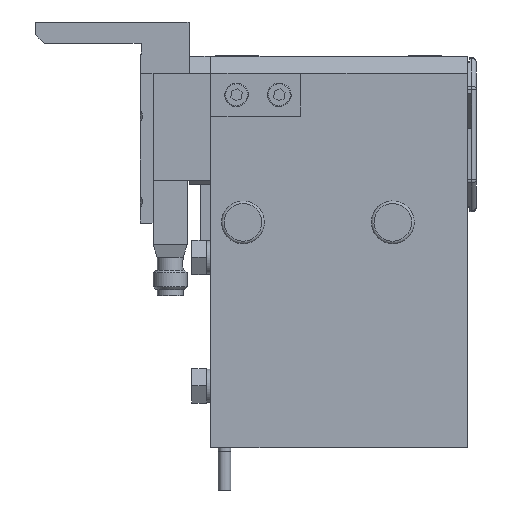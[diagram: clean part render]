
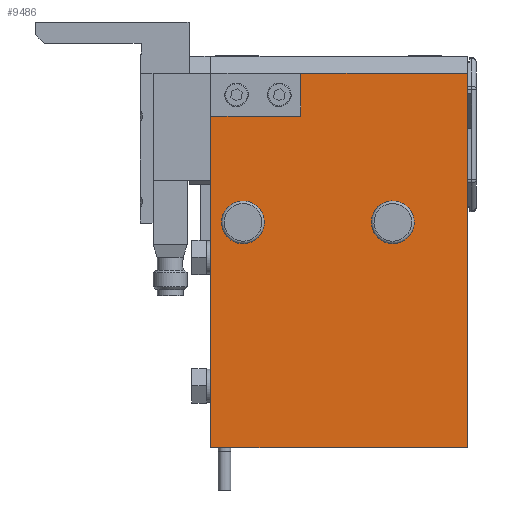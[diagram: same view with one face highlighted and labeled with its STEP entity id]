
A CAD part, front view. The second image highlights one B-rep face of the part: STEP entity #9486.
In plain terms, the highlighted planar face has unit normal (0, -1, 0).
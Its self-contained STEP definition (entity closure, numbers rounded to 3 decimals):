
#201=FACE_BOUND('',#1624,.T.);
#202=FACE_BOUND('',#1625,.T.);
#408=CIRCLE('',#10071,5.);
#413=CIRCLE('',#10082,5.);
#1002=FACE_OUTER_BOUND('',#1623,.T.);
#1623=EDGE_LOOP('',(#7076,#7077,#7078,#7079,#7080,#7081,#7082));
#1624=EDGE_LOOP('',(#7083));
#1625=EDGE_LOOP('',(#7084));
#2346=LINE('',#14546,#3222);
#2442=LINE('',#14831,#3318);
#2444=LINE('',#14835,#3320);
#2446=LINE('',#14838,#3322);
#2447=LINE('',#14840,#3323);
#2448=LINE('',#14842,#3324);
#2449=LINE('',#14843,#3325);
#3222=VECTOR('',#11733,60.);
#3318=VECTOR('',#11971,15.);
#3320=VECTOR('',#11975,21.);
#3322=VECTOR('',#11979,10.);
#3323=VECTOR('',#11982,62.5);
#3324=VECTOR('',#11983,87.5);
#3325=VECTOR('',#11984,39.);
#4057=VERTEX_POINT('',#14409);
#4062=VERTEX_POINT('',#14425);
#4113=VERTEX_POINT('',#14543);
#4114=VERTEX_POINT('',#14545);
#4203=VERTEX_POINT('',#14811);
#4207=VERTEX_POINT('',#14826);
#4208=VERTEX_POINT('',#14830);
#4209=VERTEX_POINT('',#14834);
#4210=VERTEX_POINT('',#14841);
#5065=EDGE_CURVE('',#4057,#4057,#408,.T.);
#5070=EDGE_CURVE('',#4062,#4062,#413,.T.);
#5121=EDGE_CURVE('',#4113,#4114,#2346,.T.);
#5247=EDGE_CURVE('',#4208,#4207,#2442,.T.);
#5249=EDGE_CURVE('',#4209,#4208,#2444,.T.);
#5251=EDGE_CURVE('',#4203,#4209,#2446,.T.);
#5252=EDGE_CURVE('',#4207,#4114,#2447,.T.);
#5253=EDGE_CURVE('',#4113,#4210,#2448,.T.);
#5254=EDGE_CURVE('',#4210,#4203,#2449,.T.);
#7076=ORIENTED_EDGE('',*,*,#5251,.T.);
#7077=ORIENTED_EDGE('',*,*,#5249,.T.);
#7078=ORIENTED_EDGE('',*,*,#5247,.T.);
#7079=ORIENTED_EDGE('',*,*,#5252,.T.);
#7080=ORIENTED_EDGE('',*,*,#5121,.F.);
#7081=ORIENTED_EDGE('',*,*,#5253,.T.);
#7082=ORIENTED_EDGE('',*,*,#5254,.T.);
#7083=ORIENTED_EDGE('',*,*,#5065,.T.);
#7084=ORIENTED_EDGE('',*,*,#5070,.T.);
#8512=PLANE('',#10192);
#9486=ADVANCED_FACE('',(#1002,#201,#202),#8512,.F.);
#10071=AXIS2_PLACEMENT_3D('',#14410,#11606,#11607);
#10082=AXIS2_PLACEMENT_3D('',#14426,#11628,#11629);
#10192=AXIS2_PLACEMENT_3D('',#14839,#11980,#11981);
#11606=DIRECTION('center_axis',(0.,1.,0.));
#11607=DIRECTION('ref_axis',(0.997,0.,-0.071));
#11628=DIRECTION('center_axis',(0.,1.,0.));
#11629=DIRECTION('ref_axis',(0.438,0.,0.899));
#11733=DIRECTION('',(-1.,0.,0.));
#11971=DIRECTION('',(0.,0.,-1.));
#11975=DIRECTION('',(-1.,0.,0.));
#11979=DIRECTION('',(0.,0.,-1.));
#11980=DIRECTION('center_axis',(0.,1.,0.));
#11981=DIRECTION('ref_axis',(-1.,0.,0.));
#11982=DIRECTION('',(0.,0.,-1.));
#11983=DIRECTION('',(0.,0.,1.));
#11984=DIRECTION('',(-1.,0.,0.));
#14409=CARTESIAN_POINT('',(2.513,0.,53.055));
#14410=CARTESIAN_POINT('Origin',(7.5,0.,52.7));
#14425=CARTESIAN_POINT('',(40.31,0.,48.205));
#14426=CARTESIAN_POINT('Origin',(42.5,0.,52.7));
#14543=CARTESIAN_POINT('',(60.,0.,0.));
#14545=CARTESIAN_POINT('',(0.,0.,
0.));
#14546=CARTESIAN_POINT('',(60.,0.,0.));
#14811=CARTESIAN_POINT('',(21.,0.,87.5));
#14826=CARTESIAN_POINT('',(0.,0.,62.5));
#14830=CARTESIAN_POINT('',(0.,0.,77.5));
#14831=CARTESIAN_POINT('',(0.,0.,77.5));
#14834=CARTESIAN_POINT('',(21.,0.,77.5));
#14835=CARTESIAN_POINT('',(21.,0.,77.5));
#14838=CARTESIAN_POINT('',(21.,0.,87.5));
#14839=CARTESIAN_POINT('Origin',(0.,0.,
91.5));
#14840=CARTESIAN_POINT('',(0.,0.,62.5));
#14841=CARTESIAN_POINT('',(60.,0.,87.5));
#14842=CARTESIAN_POINT('',(60.,0.,0.));
#14843=CARTESIAN_POINT('',(60.,0.,87.5));
